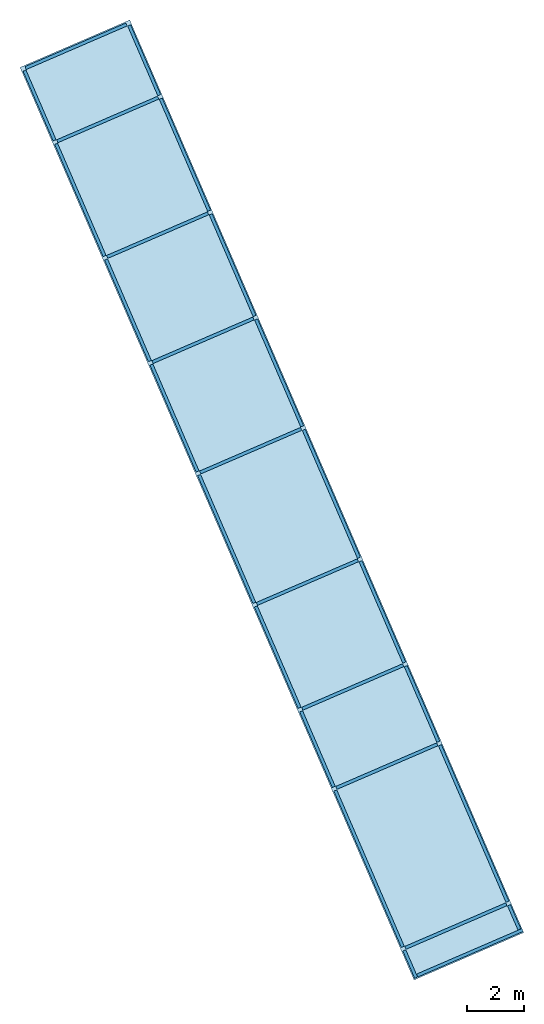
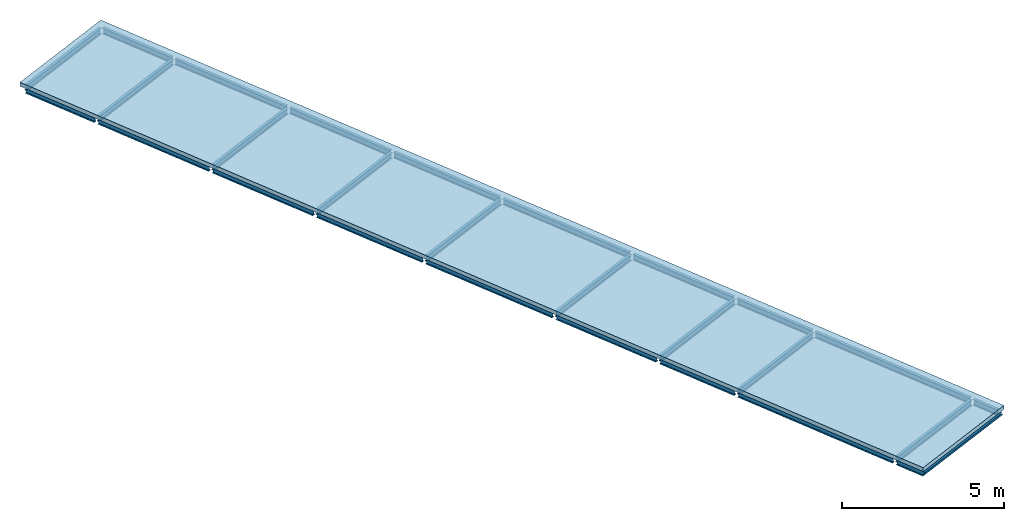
# One storey: 28 beams, 1 slab.
"""IFC4 building model written with IfcOpenShell, lengths in metres."""

from ifc_helpers import new_model, entity, si_unit, converted_unit, derived_unit, direction, frame, origin, place, context, subcontext, project, spatial, line, arc, indexed_curve, outline, extrude, source, transform, mapped, material, constituent, constituent_set, type_object, type_shapes, element, save


model = new_model("IFC4")

# Units and contexts
model_context = context("Model", 3, precision=1e-05, world=origin(), true_north=direction((6.123233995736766e-17, 1.0)))
body_context = subcontext(model_context, "Body", "Model", "MODEL_VIEW")
ifc_project = project(units=[si_unit("LENGTHUNIT", "METRE"), si_unit("AREAUNIT", "SQUARE_METRE"), si_unit("VOLUMEUNIT", "CUBIC_METRE"), converted_unit("PLANEANGLEUNIT", "DEGREE", entity("IfcPlaneAngleMeasure", 0.017453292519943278), si_unit("PLANEANGLEUNIT", "RADIAN"), dimensions=[0, 0, 0, 0, 0, 0, 0]), derived_unit("THERMALTRANSMITTANCEUNIT", [(si_unit("MASSUNIT", "GRAM", prefix="KILO"), 1), (si_unit("THERMODYNAMICTEMPERATUREUNIT", "KELVIN"), -1), (si_unit("TIMEUNIT", "SECOND"), -3)]), derived_unit("USERDEFINED", [(si_unit("MASSUNIT", "GRAM", prefix="KILO"), 1), (si_unit("THERMODYNAMICTEMPERATUREUNIT", "KELVIN"), -1), (si_unit("TIMEUNIT", "SECOND"), -2)]), derived_unit("THERMALRESISTANCEUNIT", [(si_unit("MASSUNIT", "GRAM", prefix="KILO"), -1), (si_unit("TIMEUNIT", "SECOND"), 3), (si_unit("THERMODYNAMICTEMPERATUREUNIT", "KELVIN"), 1)]), si_unit("MASSUNIT", "GRAM", prefix="KILO"), derived_unit("MOMENTOFINERTIAUNIT", [(si_unit("LENGTHUNIT", "METRE"), 4)]), derived_unit("LINEARFORCEUNIT", [(si_unit("MASSUNIT", "GRAM", prefix="KILO"), 1), (si_unit("TIMEUNIT", "SECOND"), -2)]), derived_unit("WARPINGCONSTANTUNIT", [(si_unit("LENGTHUNIT", "METRE"), 6)])], contexts=[model_context])

# Site, building, storey
site_placement = place(None, origin())
site = spatial("IfcSite", under=ifc_project, at=site_placement, Name="Default", CompositionType="ELEMENT")
building_placement = place(site_placement, frame((-21.752541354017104, -73.50235179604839, 317.2999999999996), z_axis=(0.0, 0.0, 1.0), x_axis=(-0.39637753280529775, 0.918087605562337, 0.0)))
building = spatial("IfcBuilding", under=site, at=building_placement, Name="CESFAM Coyhaique", CompositionType="ELEMENT")
storey_placement = place(building_placement, frame((0.0, 0.0, 2.6999988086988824)))
storey = spatial("IfcBuildingStorey", under=building, at=storey_placement, Name="Nivel 3", CompositionType="ELEMENT", Elevation=2.6999988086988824)

# Beams
ifc_material_1 = material(Name="Steel, 45-345", Category="Metal")
beam_type_1 = type_object("IfcBeamType", Name="M_W Shapes:W220X110mm", PredefinedType="BEAM", material=ifc_material_1)
shared_shape_1 = source(origin(), body_context, "Body", "SweptSolid", [
    extrude(outline(indexed_curve([(-0.05500000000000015, -0.10034999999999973), (-0.05500000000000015, -0.11000000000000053), (0.05500000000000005, -0.11000000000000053), (0.05500000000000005, -0.10034999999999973), (0.010569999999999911, -0.10034999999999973), (0.005160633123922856, -0.0981093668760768), (0.002919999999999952, -0.09269999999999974), (0.0029199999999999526, 0.09270000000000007), (0.0051606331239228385, 0.09810936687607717), (0.010569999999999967, 0.10035000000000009), (0.05500000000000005, 0.10035000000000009), (0.05500000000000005, 0.10999999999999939), (-0.0549999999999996, 0.10999999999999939), (-0.0549999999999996, 0.10035000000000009), (-0.010570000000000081, 0.10035000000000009), (-0.005160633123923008, 0.09810936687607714), (-0.002920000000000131, 0.09270000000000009), (-0.0029200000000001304, -0.09269999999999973), (-0.0051606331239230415, -0.09810936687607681), (-0.01057000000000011, -0.10034999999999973)], segments=[line(1, 2, 3, 4, 5), arc(5, 6, 7), line(7, 8), arc(8, 9, 10), line(10, 11, 12, 13, 14, 15), arc(15, 16, 17), line(17, 18), arc(18, 19, 20), line(20, 1)], self_intersect=False)), frame((-1.9697499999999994, 0.0, 0.0), z_axis=(-1.0, 0.0, 0.0), x_axis=(0.0, -1.0, 0.0)), (0.0, 0.0, -1.0), 4.0072),
])
type_shapes(beam_type_1, [shared_shape_1])
beam_1_placement = place(storey_placement, frame((-12.810106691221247, 3.7807581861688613, -0.2600000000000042), z_axis=(0.0, 0.0, 1.0), x_axis=(0.0, -1.0, 0.0)))
element("IfcBeam", 1, at=beam_1_placement, inside=storey, type_object=beam_type_1, Name="M_W Shapes:W220X110mm", ObjectType="M_W Shapes:W220X110mm", PredefinedType="BEAM", context=body_context, shape_type="MappedRepresentation", body=[
    mapped(shared_shape_1, transform((0.0, 0.0, 0.0), scale=1.0)),
])
beam_type_2 = type_object("IfcBeamType", Name="M_W Shapes:W220X110mm", PredefinedType="BEAM", material=ifc_material_1)
shared_shape_2 = source(origin(), body_context, "Body", "SweptSolid", [
    extrude(outline(indexed_curve([(-0.05500000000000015, -0.10034999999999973), (-0.05500000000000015, -0.11000000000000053), (0.05500000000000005, -0.11000000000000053), (0.05500000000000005, -0.10034999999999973), (0.010569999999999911, -0.10034999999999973), (0.005160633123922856, -0.0981093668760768), (0.002919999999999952, -0.09269999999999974), (0.0029199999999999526, 0.09270000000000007), (0.0051606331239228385, 0.09810936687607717), (0.010569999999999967, 0.10035000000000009), (0.05500000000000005, 0.10035000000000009), (0.05500000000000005, 0.10999999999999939), (-0.0549999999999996, 0.10999999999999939), (-0.0549999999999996, 0.10035000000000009), (-0.010570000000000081, 0.10035000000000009), (-0.005160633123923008, 0.09810936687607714), (-0.002920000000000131, 0.09270000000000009), (-0.0029200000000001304, -0.09269999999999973), (-0.0051606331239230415, -0.09810936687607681), (-0.01057000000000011, -0.10034999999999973)], segments=[line(1, 2, 3, 4, 5), arc(5, 6, 7), line(7, 8), arc(8, 9, 10), line(10, 11, 12, 13, 14, 15), arc(15, 16, 17), line(17, 18), arc(18, 19, 20), line(20, 1)], self_intersect=False)), frame((-1.9180000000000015, 0.0, 0.0), z_axis=(-1.0, 0.0, 0.0), x_axis=(0.0, -1.0, 0.0)), (0.0, 0.0, -1.0), 3.8360000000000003),
])
type_shapes(beam_type_2, [shared_shape_2])
for number, where, z_axis, x_axis in (
    (2, (21.70989330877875, 3.8282581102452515, -0.26000000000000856), (0.0, 0.0, 1.0), (0.0, -1.0, 0.0)),
    (3, (18.924893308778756, 3.82825811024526, -0.26000000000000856), (0.0, 0.0, 1.0), (0.0, -1.0, 0.0)),
    (4, (14.524893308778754, 3.828258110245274, -0.26000000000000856), (0.0, 0.0, 1.0), (0.0, -1.0, 0.0)),
    (5, (10.524893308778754, 3.828258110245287, -0.26000000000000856), (0.0, 0.0, 1.0), (0.0, -1.0, 0.0)),
    (6, (6.324893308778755, 3.828258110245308, -0.26000000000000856), (0.0, 0.0, 1.0), (0.0, -1.0, 0.0)),
    (7, (1.3248933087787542, 3.828258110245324, -0.26000000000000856), (0.0, 0.0, 1.0), (0.0, -1.0, 0.0)),
    (8, (-2.6651066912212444, 3.8282581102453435, -0.26000000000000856), (0.0, 0.0, 1.0), (0.0, -1.0, 0.0)),
    (9, (-5.675106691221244, 3.8282581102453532, -0.26000000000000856), (0.0, 0.0, 1.0), (0.0, -1.0, 0.0)),
    (10, (-11.760106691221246, 3.8282581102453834, -0.26000000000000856), (0.0, 0.0, 1.0), (0.0, -1.0, 0.0)),
):
    element("IfcBeam", number, at=place(storey_placement, frame(where, z_axis=z_axis, x_axis=x_axis)), inside=storey, type_object=beam_type_2, Name="M_W Shapes:W220X110mm", ObjectType="M_W Shapes:W220X110mm", PredefinedType="BEAM", context=body_context, shape_type="MappedRepresentation", body=[
        mapped(shared_shape_2, transform((0.0, 0.0, 0.0), scale=1.0)),
    ])
beam_type_3 = type_object("IfcBeamType", Name="M_W Shapes:W220X110mm", PredefinedType="BEAM", material=ifc_material_1)
shared_shape_3 = source(origin(), body_context, "Body", "SweptSolid", [
    extrude(outline(indexed_curve([(-0.05500000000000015, -0.10034999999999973), (-0.05500000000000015, -0.11000000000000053), (0.05500000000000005, -0.11000000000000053), (0.05500000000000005, -0.10034999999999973), (0.010569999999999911, -0.10034999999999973), (0.005160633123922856, -0.0981093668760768), (0.002919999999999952, -0.09269999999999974), (0.0029199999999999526, 0.09270000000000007), (0.0051606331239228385, 0.09810936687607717), (0.010569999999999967, 0.10035000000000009), (0.05500000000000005, 0.10035000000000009), (0.05500000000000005, 0.10999999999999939), (-0.0549999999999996, 0.10999999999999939), (-0.0549999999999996, 0.10035000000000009), (-0.010570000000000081, 0.10035000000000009), (-0.005160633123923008, 0.09810936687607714), (-0.002920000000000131, 0.09270000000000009), (-0.0029200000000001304, -0.09269999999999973), (-0.0051606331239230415, -0.09810936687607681), (-0.01057000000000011, -0.10034999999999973)], segments=[line(1, 2, 3, 4, 5), arc(5, 6, 7), line(7, 8), arc(8, 9, 10), line(10, 11, 12, 13, 14, 15), arc(15, 16, 17), line(17, 18), arc(18, 19, 20), line(20, 1)], self_intersect=False)), frame((-0.5800000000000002, 0.0, 0.0), z_axis=(-1.0, 0.0, 0.0), x_axis=(0.0, -1.0, 0.0)), (0.0, 0.0, -1.0), 1.0373),
])
type_shapes(beam_type_3, [shared_shape_3])
beam_2_placement = place(storey_placement, frame((-12.285106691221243, 5.818258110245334, -0.2600000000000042)))
element("IfcBeam", 11, at=beam_2_placement, inside=storey, type_object=beam_type_3, Name="M_W Shapes:W220X110mm", ObjectType="M_W Shapes:W220X110mm", PredefinedType="BEAM", context=body_context, shape_type="MappedRepresentation", body=[
    mapped(shared_shape_3, transform((0.0, 0.0, 0.0), scale=1.0)),
])
beam_type_4 = type_object("IfcBeamType", Name="M_W Shapes:W220X110mm", PredefinedType="BEAM", material=ifc_material_1)
shared_shape_4 = source(origin(), body_context, "Body", "SweptSolid", [
    extrude(outline(indexed_curve([(-0.05500000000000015, -0.10034999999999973), (-0.05500000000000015, -0.11000000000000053), (0.05500000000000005, -0.11000000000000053), (0.05500000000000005, -0.10034999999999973), (0.010569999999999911, -0.10034999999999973), (0.005160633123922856, -0.0981093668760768), (0.002919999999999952, -0.09269999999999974), (0.0029199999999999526, 0.09270000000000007), (0.0051606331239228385, 0.09810936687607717), (0.010569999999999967, 0.10035000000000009), (0.05500000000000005, 0.10035000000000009), (0.05500000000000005, 0.10999999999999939), (-0.0549999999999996, 0.10999999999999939), (-0.0549999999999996, 0.10035000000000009), (-0.010570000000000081, 0.10035000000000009), (-0.005160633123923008, 0.09810936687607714), (-0.002920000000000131, 0.09270000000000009), (-0.0029200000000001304, -0.09269999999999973), (-0.0051606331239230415, -0.09810936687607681), (-0.01057000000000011, -0.10034999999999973)], segments=[line(1, 2, 3, 4, 5), arc(5, 6, 7), line(7, 8), arc(8, 9, 10), line(10, 11, 12, 13, 14, 15), arc(15, 16, 17), line(17, 18), arc(18, 19, 20), line(20, 1)], self_intersect=False)), frame((-0.4573000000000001, 0.0, 0.0), z_axis=(-1.0, 0.0, 0.0), x_axis=(0.0, -1.0, 0.0)), (0.0, 0.0, -1.0), 0.9146000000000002),
])
type_shapes(beam_type_4, [shared_shape_4])
beam_3_placement = place(storey_placement, frame((-12.28510669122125, 1.8382581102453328, -0.2600000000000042)))
element("IfcBeam", 12, at=beam_3_placement, inside=storey, type_object=beam_type_4, Name="M_W Shapes:W220X110mm", ObjectType="M_W Shapes:W220X110mm", PredefinedType="BEAM", context=body_context, shape_type="MappedRepresentation", body=[
    mapped(shared_shape_4, transform((0.0, 0.0, 0.0), scale=1.0)),
])
beam_type_5 = type_object("IfcBeamType", Name="M_W Shapes:W220X110mm", PredefinedType="BEAM", material=ifc_material_1)
shared_shape_5 = source(origin(), body_context, "Body", "SweptSolid", [
    extrude(outline(indexed_curve([(-0.05500000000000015, -0.10034999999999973), (-0.05500000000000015, -0.11000000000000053), (0.05500000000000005, -0.11000000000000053), (0.05500000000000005, -0.10034999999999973), (0.010569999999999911, -0.10034999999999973), (0.005160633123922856, -0.0981093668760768), (0.002919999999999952, -0.09269999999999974), (0.0029199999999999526, 0.09270000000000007), (0.005160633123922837, 0.09810936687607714), (0.010569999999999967, 0.10035000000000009), (0.05500000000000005, 0.10035000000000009), (0.05500000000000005, 0.10999999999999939), (-0.0549999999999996, 0.10999999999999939), (-0.0549999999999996, 0.10035000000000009), (-0.010570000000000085, 0.10035000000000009), (-0.0051606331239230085, 0.09810936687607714), (-0.002920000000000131, 0.09270000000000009), (-0.0029200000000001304, -0.09269999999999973), (-0.0051606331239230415, -0.09810936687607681), (-0.01057000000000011, -0.10034999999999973)], segments=[line(1, 2, 3, 4, 5), arc(5, 6, 7), line(7, 8), arc(8, 9, 10), line(10, 11, 12, 13, 14, 15), arc(15, 16, 17), line(17, 18), arc(18, 19, 20), line(20, 1)], self_intersect=False)), frame((-2.9748, 0.0, 0.0), z_axis=(-1.0, 0.0, 0.0), x_axis=(0.0, -1.0, 0.0)), (0.0, 0.0, -1.0), 5.949600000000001),
])
type_shapes(beam_type_5, [shared_shape_5])
for number, where in (
    (13, (-8.717606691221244, 5.818258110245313, -0.2600000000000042)),
    (14, (-8.71760669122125, 1.8382581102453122, -0.2600000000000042)),
):
    element("IfcBeam", number, at=place(storey_placement, frame(where)), inside=storey, type_object=beam_type_5, Name="M_W Shapes:W220X110mm", ObjectType="M_W Shapes:W220X110mm", PredefinedType="BEAM", context=body_context, shape_type="MappedRepresentation", body=[
        mapped(shared_shape_5, transform((0.0, 0.0, 0.0), scale=1.0)),
    ])
beam_type_6 = type_object("IfcBeamType", Name="M_W Shapes:W220X110mm", PredefinedType="BEAM", material=ifc_material_1)
shared_shape_6 = source(origin(), body_context, "Body", "SweptSolid", [
    extrude(outline(indexed_curve([(-0.05500000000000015, -0.10034999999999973), (-0.05500000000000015, -0.11000000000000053), (0.05500000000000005, -0.11000000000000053), (0.05500000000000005, -0.10034999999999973), (0.010569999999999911, -0.10034999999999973), (0.005160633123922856, -0.0981093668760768), (0.002919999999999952, -0.09269999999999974), (0.0029199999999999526, 0.09270000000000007), (0.005160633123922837, 0.09810936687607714), (0.010569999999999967, 0.10035000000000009), (0.05500000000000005, 0.10035000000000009), (0.05500000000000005, 0.10999999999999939), (-0.0549999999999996, 0.10999999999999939), (-0.0549999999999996, 0.10035000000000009), (-0.010570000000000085, 0.10035000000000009), (-0.0051606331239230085, 0.09810936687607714), (-0.002920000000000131, 0.09270000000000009), (-0.0029200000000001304, -0.09269999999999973), (-0.0051606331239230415, -0.09810936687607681), (-0.01057000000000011, -0.10034999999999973)], segments=[line(1, 2, 3, 4, 5), arc(5, 6, 7), line(7, 8), arc(8, 9, 10), line(10, 11, 12, 13, 14, 15), arc(15, 16, 17), line(17, 18), arc(18, 19, 20), line(20, 1)], self_intersect=False)), frame((-1.4372999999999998, 0.0, 0.0), z_axis=(-1.0, 0.0, 0.0), x_axis=(0.0, -1.0, 0.0)), (0.0, 0.0, -1.0), 2.8745999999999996),
])
type_shapes(beam_type_6, [shared_shape_6])
for number, where in (
    (15, (-4.1701066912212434, 5.818258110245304, -0.2600000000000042)),
    (16, (-4.17010669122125, 1.8382581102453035, -0.2600000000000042)),
):
    element("IfcBeam", number, at=place(storey_placement, frame(where)), inside=storey, type_object=beam_type_6, Name="M_W Shapes:W220X110mm", ObjectType="M_W Shapes:W220X110mm", PredefinedType="BEAM", context=body_context, shape_type="MappedRepresentation", body=[
        mapped(shared_shape_6, transform((0.0, 0.0, 0.0), scale=1.0)),
    ])
beam_type_7 = type_object("IfcBeamType", Name="M_W Shapes:W220X110mm", PredefinedType="BEAM", material=ifc_material_1)
shared_shape_7 = source(origin(), body_context, "Body", "SweptSolid", [
    extrude(outline(indexed_curve([(-0.05500000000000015, -0.10034999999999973), (-0.05500000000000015, -0.11000000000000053), (0.05500000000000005, -0.11000000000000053), (0.05500000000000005, -0.10034999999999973), (0.010569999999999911, -0.10034999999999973), (0.005160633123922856, -0.0981093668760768), (0.002919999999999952, -0.09269999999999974), (0.0029199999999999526, 0.09270000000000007), (0.005160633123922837, 0.09810936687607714), (0.010569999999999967, 0.10035000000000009), (0.05500000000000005, 0.10035000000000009), (0.05500000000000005, 0.10999999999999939), (-0.0549999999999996, 0.10999999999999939), (-0.0549999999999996, 0.10035000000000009), (-0.010570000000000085, 0.10035000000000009), (-0.0051606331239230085, 0.09810936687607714), (-0.002920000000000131, 0.09270000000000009), (-0.0029200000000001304, -0.09269999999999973), (-0.0051606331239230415, -0.09810936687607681), (-0.01057000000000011, -0.10034999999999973)], segments=[line(1, 2, 3, 4, 5), arc(5, 6, 7), line(7, 8), arc(8, 9, 10), line(10, 11, 12, 13, 14, 15), arc(15, 16, 17), line(17, 18), arc(18, 19, 20), line(20, 1)], self_intersect=False)), frame((-1.9272999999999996, 0.0, 0.0), z_axis=(-1.0, 0.0, 0.0), x_axis=(0.0, -1.0, 0.0)), (0.0, 0.0, -1.0), 3.8545999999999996),
])
type_shapes(beam_type_7, [shared_shape_7])
for number, where in (
    (17, (-0.6701066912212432, 5.81825811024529, -0.2600000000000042)),
    (18, (-0.6701066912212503, 1.8382581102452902, -0.2600000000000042)),
):
    element("IfcBeam", number, at=place(storey_placement, frame(where)), inside=storey, type_object=beam_type_7, Name="M_W Shapes:W220X110mm", ObjectType="M_W Shapes:W220X110mm", PredefinedType="BEAM", context=body_context, shape_type="MappedRepresentation", body=[
        mapped(shared_shape_7, transform((0.0, 0.0, 0.0), scale=1.0)),
    ])
beam_type_8 = type_object("IfcBeamType", Name="M_W Shapes:W220X110mm", PredefinedType="BEAM", material=ifc_material_1)
shared_shape_8 = source(origin(), body_context, "Body", "SweptSolid", [
    extrude(outline(indexed_curve([(-0.05500000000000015, -0.10034999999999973), (-0.05500000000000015, -0.11000000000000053), (0.05500000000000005, -0.11000000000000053), (0.05500000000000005, -0.10034999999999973), (0.010569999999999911, -0.10034999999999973), (0.005160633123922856, -0.0981093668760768), (0.002919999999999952, -0.09269999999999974), (0.0029199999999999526, 0.09270000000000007), (0.005160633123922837, 0.09810936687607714), (0.010569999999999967, 0.10035000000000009), (0.05500000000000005, 0.10035000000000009), (0.05500000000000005, 0.10999999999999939), (-0.0549999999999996, 0.10999999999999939), (-0.0549999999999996, 0.10035000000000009), (-0.010570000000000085, 0.10035000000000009), (-0.0051606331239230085, 0.09810936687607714), (-0.002920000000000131, 0.09270000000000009), (-0.0029200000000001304, -0.09269999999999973), (-0.0051606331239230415, -0.09810936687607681), (-0.01057000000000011, -0.10034999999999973)], segments=[line(1, 2, 3, 4, 5), arc(5, 6, 7), line(7, 8), arc(8, 9, 10), line(10, 11, 12, 13, 14, 15), arc(15, 16, 17), line(17, 18), arc(18, 19, 20), line(20, 1)], self_intersect=False)), frame((-2.4323000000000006, 0.0, 0.0), z_axis=(-1.0, 0.0, 0.0), x_axis=(0.0, -1.0, 0.0)), (0.0, 0.0, -1.0), 4.864599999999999),
])
type_shapes(beam_type_8, [shared_shape_8])
for number, where in (
    (19, (3.824893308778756, 5.818258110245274, -0.2600000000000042)),
    (20, (3.824893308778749, 1.8382581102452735, -0.2600000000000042)),
):
    element("IfcBeam", number, at=place(storey_placement, frame(where)), inside=storey, type_object=beam_type_8, Name="M_W Shapes:W220X110mm", ObjectType="M_W Shapes:W220X110mm", PredefinedType="BEAM", context=body_context, shape_type="MappedRepresentation", body=[
        mapped(shared_shape_8, transform((0.0, 0.0, 0.0), scale=1.0)),
    ])
beam_type_9 = type_object("IfcBeamType", Name="M_W Shapes:W220X110mm", PredefinedType="BEAM", material=ifc_material_1)
shared_shape_9 = source(origin(), body_context, "Body", "SweptSolid", [
    extrude(outline(indexed_curve([(-0.05500000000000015, -0.10034999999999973), (-0.05500000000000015, -0.11000000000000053), (0.05500000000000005, -0.11000000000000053), (0.05500000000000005, -0.10034999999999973), (0.010569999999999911, -0.10034999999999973), (0.005160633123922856, -0.0981093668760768), (0.002919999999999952, -0.09269999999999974), (0.0029199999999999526, 0.09270000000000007), (0.005160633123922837, 0.09810936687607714), (0.010569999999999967, 0.10035000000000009), (0.05500000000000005, 0.10035000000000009), (0.05500000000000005, 0.10999999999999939), (-0.0549999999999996, 0.10999999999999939), (-0.0549999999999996, 0.10035000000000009), (-0.010570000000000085, 0.10035000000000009), (-0.0051606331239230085, 0.09810936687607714), (-0.002920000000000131, 0.09270000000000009), (-0.0029200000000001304, -0.09269999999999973), (-0.0051606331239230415, -0.09810936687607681), (-0.01057000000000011, -0.10034999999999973)], segments=[line(1, 2, 3, 4, 5), arc(5, 6, 7), line(7, 8), arc(8, 9, 10), line(10, 11, 12, 13, 14, 15), arc(15, 16, 17), line(17, 18), arc(18, 19, 20), line(20, 1)], self_intersect=False)), frame((-2.0323, 0.0, 0.0), z_axis=(-1.0, 0.0, 0.0), x_axis=(0.0, -1.0, 0.0)), (0.0, 0.0, -1.0), 4.0645999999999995),
])
type_shapes(beam_type_9, [shared_shape_9])
for number, where in (
    (21, (8.424893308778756, 5.81825811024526, -0.2600000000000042)),
    (22, (8.42489330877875, 1.83825811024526, -0.2600000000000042)),
):
    element("IfcBeam", number, at=place(storey_placement, frame(where)), inside=storey, type_object=beam_type_9, Name="M_W Shapes:W220X110mm", ObjectType="M_W Shapes:W220X110mm", PredefinedType="BEAM", context=body_context, shape_type="MappedRepresentation", body=[
        mapped(shared_shape_9, transform((0.0, 0.0, 0.0), scale=1.0)),
    ])
beam_type_10 = type_object("IfcBeamType", Name="M_W Shapes:W220X110mm", PredefinedType="BEAM", material=ifc_material_1)
shared_shape_10 = source(origin(), body_context, "Body", "SweptSolid", [
    extrude(outline(indexed_curve([(-0.05500000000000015, -0.10034999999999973), (-0.05500000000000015, -0.11000000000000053), (0.05500000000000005, -0.11000000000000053), (0.05500000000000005, -0.10034999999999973), (0.010569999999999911, -0.10034999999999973), (0.005160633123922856, -0.0981093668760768), (0.002919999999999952, -0.09269999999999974), (0.0029199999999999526, 0.09270000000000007), (0.005160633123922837, 0.09810936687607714), (0.010569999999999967, 0.10035000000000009), (0.05500000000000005, 0.10035000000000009), (0.05500000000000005, 0.10999999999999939), (-0.0549999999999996, 0.10999999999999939), (-0.0549999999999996, 0.10035000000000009), (-0.010570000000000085, 0.10035000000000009), (-0.0051606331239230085, 0.09810936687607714), (-0.002920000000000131, 0.09270000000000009), (-0.0029200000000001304, -0.09269999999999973), (-0.0051606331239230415, -0.09810936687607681), (-0.01057000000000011, -0.10034999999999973)], segments=[line(1, 2, 3, 4, 5), arc(5, 6, 7), line(7, 8), arc(8, 9, 10), line(10, 11, 12, 13, 14, 15), arc(15, 16, 17), line(17, 18), arc(18, 19, 20), line(20, 1)], self_intersect=False)), frame((-1.9322999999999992, 0.0, 0.0), z_axis=(-1.0, 0.0, 0.0), x_axis=(0.0, -1.0, 0.0)), (0.0, 0.0, -1.0), 3.8646),
])
type_shapes(beam_type_10, [shared_shape_10])
for number, where in (
    (23, (12.524893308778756, 5.818258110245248, -0.2600000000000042)),
    (24, (12.524893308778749, 1.838258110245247, -0.2600000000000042)),
):
    element("IfcBeam", number, at=place(storey_placement, frame(where)), inside=storey, type_object=beam_type_10, Name="M_W Shapes:W220X110mm", ObjectType="M_W Shapes:W220X110mm", PredefinedType="BEAM", context=body_context, shape_type="MappedRepresentation", body=[
        mapped(shared_shape_10, transform((0.0, 0.0, 0.0), scale=1.0)),
    ])
beam_type_11 = type_object("IfcBeamType", Name="M_W Shapes:W220X110mm", PredefinedType="BEAM", material=ifc_material_1)
shared_shape_11 = source(origin(), body_context, "Body", "SweptSolid", [
    extrude(outline(indexed_curve([(-0.05500000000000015, -0.10034999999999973), (-0.05500000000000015, -0.11000000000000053), (0.05500000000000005, -0.11000000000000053), (0.05500000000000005, -0.10034999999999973), (0.010569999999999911, -0.10034999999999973), (0.005160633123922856, -0.0981093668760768), (0.002919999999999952, -0.09269999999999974), (0.0029199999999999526, 0.09270000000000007), (0.005160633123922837, 0.09810936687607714), (0.010569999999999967, 0.10035000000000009), (0.05500000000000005, 0.10035000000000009), (0.05500000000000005, 0.10999999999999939), (-0.0549999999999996, 0.10999999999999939), (-0.0549999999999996, 0.10035000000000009), (-0.010570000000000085, 0.10035000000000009), (-0.0051606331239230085, 0.09810936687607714), (-0.002920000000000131, 0.09270000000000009), (-0.0029200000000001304, -0.09269999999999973), (-0.0051606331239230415, -0.09810936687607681), (-0.01057000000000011, -0.10034999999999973)], segments=[line(1, 2, 3, 4, 5), arc(5, 6, 7), line(7, 8), arc(8, 9, 10), line(10, 11, 12, 13, 14, 15), arc(15, 16, 17), line(17, 18), arc(18, 19, 20), line(20, 1)], self_intersect=False)), frame((-2.1323000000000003, 0.0, 0.0), z_axis=(-1.0, 0.0, 0.0), x_axis=(0.0, -1.0, 0.0)), (0.0, 0.0, -1.0), 4.2646),
])
type_shapes(beam_type_11, [shared_shape_11])
for number, where in (
    (25, (16.724893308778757, 5.818258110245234, -0.2600000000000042)),
    (26, (16.72489330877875, 1.8382581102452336, -0.2600000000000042)),
):
    element("IfcBeam", number, at=place(storey_placement, frame(where)), inside=storey, type_object=beam_type_11, Name="M_W Shapes:W220X110mm", ObjectType="M_W Shapes:W220X110mm", PredefinedType="BEAM", context=body_context, shape_type="MappedRepresentation", body=[
        mapped(shared_shape_11, transform((0.0, 0.0, 0.0), scale=1.0)),
    ])
beam_type_12 = type_object("IfcBeamType", Name="M_W Shapes:W220X110mm", PredefinedType="BEAM", material=ifc_material_1)
shared_shape_12 = source(origin(), body_context, "Body", "SweptSolid", [
    extrude(outline(indexed_curve([(-0.05500000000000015, -0.10034999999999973), (-0.05500000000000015, -0.11000000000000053), (0.05500000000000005, -0.11000000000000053), (0.05500000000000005, -0.10034999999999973), (0.010569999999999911, -0.10034999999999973), (0.005160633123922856, -0.0981093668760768), (0.002919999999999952, -0.09269999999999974), (0.0029199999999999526, 0.09270000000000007), (0.005160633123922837, 0.09810936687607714), (0.010569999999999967, 0.10035000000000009), (0.05500000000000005, 0.10035000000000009), (0.05500000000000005, 0.10999999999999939), (-0.0549999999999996, 0.10999999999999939), (-0.0549999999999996, 0.10035000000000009), (-0.010570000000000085, 0.10035000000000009), (-0.0051606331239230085, 0.09810936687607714), (-0.002920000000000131, 0.09270000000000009), (-0.0029200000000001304, -0.09269999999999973), (-0.0051606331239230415, -0.09810936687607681), (-0.01057000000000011, -0.10034999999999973)], segments=[line(1, 2, 3, 4, 5), arc(5, 6, 7), line(7, 8), arc(8, 9, 10), line(10, 11, 12, 13, 14, 15), arc(15, 16, 17), line(17, 18), arc(18, 19, 20), line(20, 1)], self_intersect=False)), frame((-1.3248, 0.0, 0.0), z_axis=(-1.0, 0.0, 0.0), x_axis=(0.0, -1.0, 0.0)), (0.0, 0.0, -1.0), 2.6496),
])
type_shapes(beam_type_12, [shared_shape_12])
for number, where in (
    (27, (20.317393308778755, 5.8182581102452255, -0.2600000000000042)),
    (28, (20.31739330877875, 1.8382581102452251, -0.2600000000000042)),
):
    element("IfcBeam", number, at=place(storey_placement, frame(where)), inside=storey, type_object=beam_type_12, Name="M_W Shapes:W220X110mm", ObjectType="M_W Shapes:W220X110mm", PredefinedType="BEAM", context=body_context, shape_type="MappedRepresentation", body=[
        mapped(shared_shape_12, transform((0.0, 0.0, 0.0), scale=1.0)),
    ])

# Slab
ifc_material_2 = material(Name="HA")
ifc_constituent = constituent(ifc_material_2, Name="HA", fraction=1.0)
ifc_constituent_set = constituent_set(constituents=[ifc_constituent], Name="Floor:Losa colaborante 150mm")
slab_type = type_object("IfcSlabType", Name="Floor:Losa colaborante 150mm", PredefinedType="FLOOR", material=ifc_constituent_set)
slab_placement = place(storey_placement, origin())
element("IfcSlab", 29, at=slab_placement, inside=storey, type_object=slab_type, material=ifc_constituent_set, Name="Floor:Losa colaborante 150mm", ObjectType="Floor:Losa colaborante 150mm", PredefinedType="FLOOR", context=body_context, shape_type="SweptSolid", body=[
    extrude(outline(indexed_curve([(-2.0874999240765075, -17.360000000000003), (2.0874999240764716, -17.360000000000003), (2.0874999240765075, 17.359999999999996), (-2.0874999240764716, 17.360000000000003), (-2.0874999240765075, -17.360000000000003)], self_intersect=False)), frame((4.449893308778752, 3.8307581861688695, 0.0), z_axis=(0.0, 0.0, -1.0), x_axis=(0.0, 1.0, 0.0)), (0.0, 0.0, 1.0), 0.15000000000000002),
])

save(model, "model.ifc")
